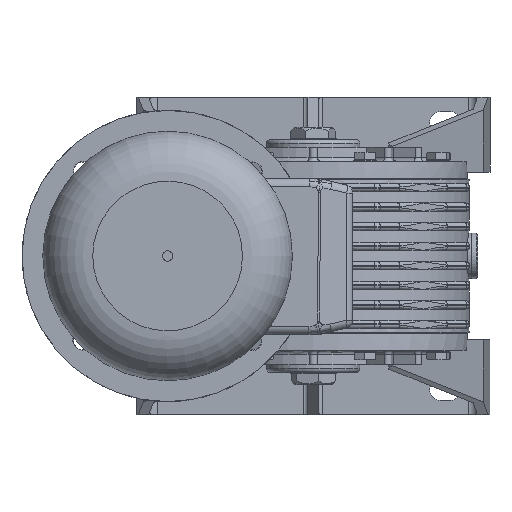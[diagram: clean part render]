
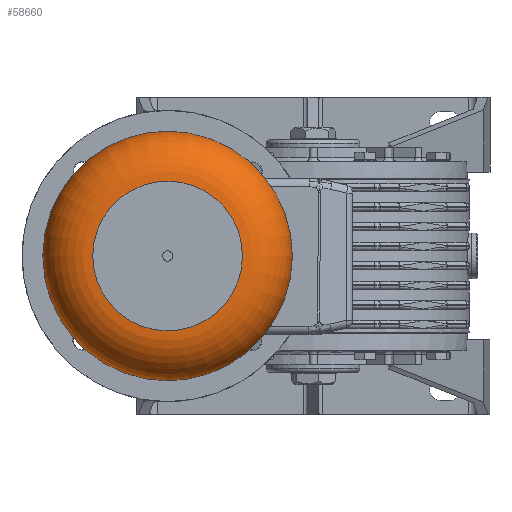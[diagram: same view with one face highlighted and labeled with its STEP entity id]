
A CAD part, left-side view. The second image highlights one B-rep face of the part: STEP entity #58660.
In plain terms, the highlighted toroidal (fillet/blend) face has major radius 36 mm and minor radius 24 mm.
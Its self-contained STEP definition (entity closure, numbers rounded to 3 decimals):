
#58633=CARTESIAN_POINT('',(236.0,0.0,0.0));
#58634=DIRECTION('',(1.0,0.0,0.0));
#58635=DIRECTION('',(0.0,0.0,-1.0));
#58636=AXIS2_PLACEMENT_3D('',#58633,#58634,#58635);
#58637=TOROIDAL_SURFACE('',#58636,36.,24.0);
#58638=CARTESIAN_POINT('',(260.,36.,0.0));
#58639=VERTEX_POINT('',#58638);
#58640=CARTESIAN_POINT('',(260.,0.0,0.0));
#58641=DIRECTION('',(1.0,0.0,0.0));
#58642=DIRECTION('',(0.0,1.0,0.0));
#58643=AXIS2_PLACEMENT_3D('',#58640,#58641,#58642);
#58644=CIRCLE('',#58643,36.);
#58645=EDGE_CURVE('',#58639,#58639,#58644,.T.);
#58646=ORIENTED_EDGE('',*,*,#58645,.F.);
#58647=EDGE_LOOP('',(#58646));
#58648=FACE_OUTER_BOUND('',#58647,.T.);
#58649=CARTESIAN_POINT('',(236.0,60.0,0.0));
#58650=VERTEX_POINT('',#58649);
#58651=CARTESIAN_POINT('',(236.0,0.0,0.0));
#58652=DIRECTION('',(1.0,0.0,0.0));
#58653=DIRECTION('',(0.0,1.0,0.0));
#58654=AXIS2_PLACEMENT_3D('',#58651,#58652,#58653);
#58655=CIRCLE('',#58654,60.0);
#58656=EDGE_CURVE('',#58650,#58650,#58655,.T.);
#58657=ORIENTED_EDGE('',*,*,#58656,.T.);
#58658=EDGE_LOOP('',(#58657));
#58659=FACE_BOUND('',#58658,.T.);
#58660=ADVANCED_FACE('',(#58648,#58659),#58637,.T.);
